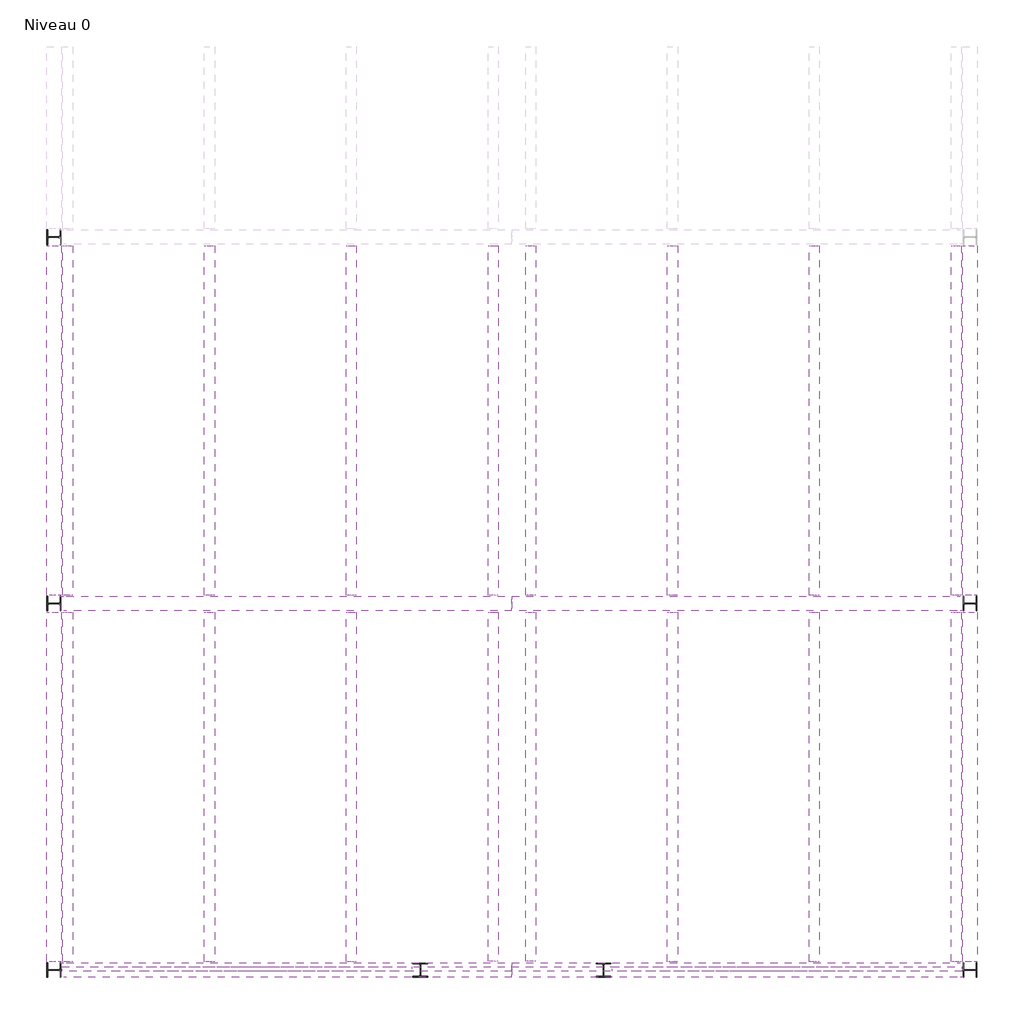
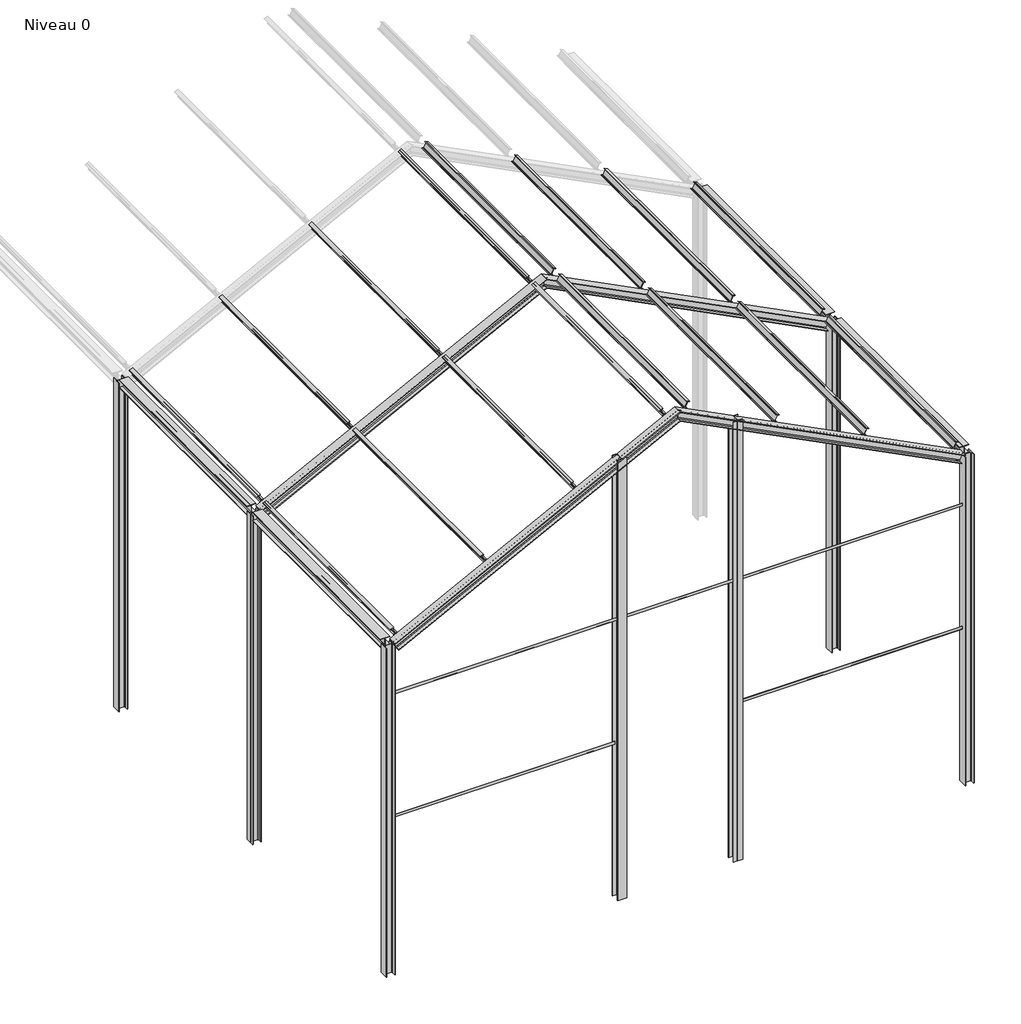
# One storey, part 1 of 3: 27 beams, 7 columns.
"""IFC4 building model written with IfcOpenShell, lengths in millimetres."""

from ifc_helpers import new_model, si_unit, frame, origin, place, context, project, spatial, polyline, circle_curve, ellipse_curve, transform, mapped, element, save
from ifc_brep_helpers import plane_surface, revolved_surface, advanced_brep
from components import hea160_7b7a9898, ipe_ipe120_a764803e, l50x5_0b9c2f02, l50x5_4d45e271, l50x5_54bbfbbe, hea160_ef068d4c, hea160_0ed8a569

model = new_model("IFC4")

# Units and contexts
model_context = context("Model", 3, world=origin())
ifc_project = project(units=[si_unit("LENGTHUNIT", "METRE", prefix="MILLI")], contexts=[model_context])

# Site, building, storey
site = spatial("IfcSite", under=ifc_project)
building = spatial("IfcBuilding", under=site)
storey = spatial("IfcBuildingStorey", under=building, Name="Niveau 0", Elevation=0.0)

# Beams
placement = place(None, origin())
element("IfcBeam", 1, ObjectType="HE-A : HEA160", at=placement, inside=storey, context=model_context, shape_type="AdvancedBrep", body=[
    advanced_brep(
    [(136.5957173, -80.0, 5609.1403443), (136.5957173, -18.0, 5609.1403443), (129.7808261, -3.0, 5622.5028762), (82.5309134, -3.0, 5715.1497636), (75.7160222, -18.0, 5728.5122955), (75.7160222, -80.0, 5728.5122955), (71.6270875, -80.0, 5736.5298146), (71.6270875, 80.0, 5736.5298146), (75.7160222, 80.0, 5728.5122955), (75.7160222, 18.0, 5728.5122955), (82.5309134, 3.0, 5715.1497636), (129.7808261, 3.0, 5622.5028762), (136.5957173, 18.0, 5609.1403443), (136.5957173, 80.0, 5609.1403443), (140.684652, 80.0, 5601.1228252), (140.684652, -80.0, 5601.1228252), (5000.0, -80.0, 8089.4765285), (5000.0, -18.0, 8089.4765285), (5000.0, -3.0, 8106.3146549), (5000.0, -3.0, 8223.0589978), (5000.0, -18.0, 8239.8971242), (5000.0, -80.0, 8239.8971242), (5000.0, -80.0, 8250.0), (5000.0, 80.0, 8250.0), (5000.0, 80.0, 8239.8971242), (5000.0, 18.0, 8239.8971242), (5000.0, 3.0, 8223.0589978), (5000.0, 3.0, 8106.3146549), (5000.0, 18.0, 8089.4765285), (5000.0, 80.0, 8089.4765285), (5000.0, 80.0, 8079.3736527), (5000.0, -80.0, 8079.3736527)],
    [
        (0, 1),
        (1, 2, circle_curve(frame((129.7808261, -18.0, 5622.5028762), z_axis=(0.8908354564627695, 0.0, 0.4543260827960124), x_axis=(0.0, 1.0, 0.0)), 15.0)),
        (2, 3),
        (3, 4, circle_curve(frame((82.5309134, -18.0, 5715.1497636), z_axis=(0.8908354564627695, 0.0, 0.4543260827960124), x_axis=(0.0, 1.0, 0.0)), 15.0)),
        (4, 5),
        (5, 6),
        (6, 7),
        (7, 8),
        (8, 9),
        (9, 10, circle_curve(frame((82.5309134, 18.0, 5715.1497636), z_axis=(0.8908354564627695, 0.0, 0.4543260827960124), x_axis=(0.0, 1.0, 0.0)), 15.0)),
        (10, 11),
        (11, 12, circle_curve(frame((129.7808261, 18.0, 5622.5028762), z_axis=(0.8908354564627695, 0.0, 0.4543260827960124), x_axis=(0.0, 1.0, 0.0)), 15.0)),
        (12, 13),
        (13, 14),
        (14, 15),
        (15, 0),
        (0, 16),
        (16, 17),
        (17, 1),
        (17, 18, ellipse_curve(frame((5000.0, -18.0, 8106.3146549), z_axis=(1.0, 0.0, 0.0), x_axis=(0.0, 0.0, 1.0)), 16.8381264, 15.0)),
        (18, 2),
        (18, 19),
        (19, 3),
        (19, 20, ellipse_curve(frame((5000.0, -18.0, 8223.0589978), z_axis=(1.0, 0.0, 0.0), x_axis=(0.0, 0.0, 1.0)), 16.8381264, 15.0)),
        (20, 4),
        (20, 21),
        (21, 5),
        (21, 22),
        (22, 6),
        (22, 23),
        (23, 7),
        (23, 24),
        (24, 8),
        (24, 25),
        (25, 9),
        (25, 26, ellipse_curve(frame((5000.0, 18.0, 8223.0589978), z_axis=(1.0, 0.0, 0.0), x_axis=(0.0, 0.0, 1.0)), 16.8381264, 15.0)),
        (26, 10),
        (26, 27),
        (27, 11),
        (27, 28, ellipse_curve(frame((5000.0, 18.0, 8106.3146549), z_axis=(1.0, 0.0, 0.0), x_axis=(0.0, 0.0, 1.0)), 16.8381264, 15.0)),
        (28, 12),
        (28, 29),
        (29, 13),
        (29, 30),
        (30, 14),
        (30, 31),
        (31, 15),
        (31, 16),
    ],
    [
        plane_surface(frame((106.1558697, 0.0, 5668.8263199), z_axis=(-0.8908354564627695, 0.0, -0.4543260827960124), x_axis=(-0.4543260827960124, 0.0, 0.8908354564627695))),
        plane_surface(frame((136.5957173, -80.0, 5609.1403443), z_axis=(-0.4543260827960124, 0.0, 0.8908354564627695), x_axis=(0.8908354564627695, 0.0, 0.4543260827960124))),
        revolved_surface(polyline([(5006.814891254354, -3.0, 8109.790249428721), (129.78082604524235, -3.0, 5622.502876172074)]), (129.7808261, -18.0, 5622.5028762), (0.8908354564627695, 0.0, 0.4543260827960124)),
        plane_surface(frame((129.7808261, -3.0, 5622.5028762), z_axis=(0.0, -1.0, 0.0), x_axis=(0.8908354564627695, 0.0, 0.4543260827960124))),
        revolved_surface(polyline([(5006.8148912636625, -3.0, 8226.534592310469), (82.5309134, -3.0, 5715.1497636)]), (82.5309134, -18.0, 5715.1497636), (0.8908354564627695, 0.0, 0.4543260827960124)),
        plane_surface(frame((75.7160222, -18.0, 5728.5122955), z_axis=(0.4543260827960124, 0.0, -0.8908354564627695), x_axis=(0.8908354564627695, 0.0, 0.4543260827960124))),
        plane_surface(frame((75.7160222, -80.0, 5728.5122955), z_axis=(0.0, -1.0, 0.0), x_axis=(0.8908354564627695, 0.0, 0.4543260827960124))),
        plane_surface(frame((71.6270875, -80.0, 5736.5298146), z_axis=(-0.4543260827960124, 0.0, 0.8908354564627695), x_axis=(0.8908354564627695, 0.0, 0.4543260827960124))),
        plane_surface(frame((71.6270875, 80.0, 5736.5298146), z_axis=(0.0, 1.0, 0.0), x_axis=(0.8908354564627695, 0.0, 0.4543260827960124))),
        plane_surface(frame((75.7160222, 80.0, 5728.5122955), z_axis=(0.4543260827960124, 0.0, -0.8908354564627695), x_axis=(0.8908354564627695, 0.0, 0.4543260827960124))),
        revolved_surface(polyline([(5006.8148912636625, 33.0, 8226.534592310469), (82.5309134, 33.0, 5715.1497636)]), (82.5309134, 18.0, 5715.1497636), (0.8908354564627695, 0.0, 0.4543260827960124)),
        plane_surface(frame((82.5309134, 3.0, 5715.1497636), z_axis=(0.0, 1.0, 0.0), x_axis=(0.8908354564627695, 0.0, 0.4543260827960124))),
        revolved_surface(polyline([(5006.814891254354, 33.0, 8109.790249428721), (129.78082604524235, 33.0, 5622.502876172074)]), (129.7808261, 18.0, 5622.5028762), (0.8908354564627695, 0.0, 0.4543260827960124)),
        plane_surface(frame((136.5957173, 18.0, 5609.1403443), z_axis=(-0.4543260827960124, 0.0, 0.8908354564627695), x_axis=(0.8908354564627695, 0.0, 0.4543260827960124))),
        plane_surface(frame((136.5957173, 80.0, 5609.1403443), z_axis=(0.0, 1.0, 0.0), x_axis=(0.8908354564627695, 0.0, 0.4543260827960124))),
        plane_surface(frame((140.684652, 80.0, 5601.1228252), z_axis=(0.4543260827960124, 0.0, -0.8908354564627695), x_axis=(0.8908354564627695, 0.0, 0.4543260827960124))),
        plane_surface(frame((140.684652, -80.0, 5601.1228252), z_axis=(0.0, -1.0, 0.0), x_axis=(0.8908354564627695, 0.0, 0.4543260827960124))),
        plane_surface(frame((5000.0, 0.0, 8079.3736527), z_axis=(1.0, 0.0, 0.0), x_axis=(0.0, -1.0, 0.0))),
    ],
    [
        (0, [[1, 2, 3, 4, 5, 6, 7, 8, 9, 10, 11, 12, 13, 14, 15, 16]]),
        (1, [[-1, 17, 18, 19]]),
        (2, [[-2, -19, 20, 21]]),
        (3, [[-3, -21, 22, 23]]),
        (4, [[-4, -23, 24, 25]]),
        (5, [[-5, -25, 26, 27]]),
        (6, [[-6, -27, 28, 29]]),
        (7, [[-7, -29, 30, 31]]),
        (8, [[-8, -31, 32, 33]]),
        (9, [[-9, -33, 34, 35]]),
        (10, [[-10, -35, 36, 37]]),
        (11, [[-11, -37, 38, 39]]),
        (12, [[-12, -39, 40, 41]]),
        (13, [[-13, -41, 42, 43]]),
        (14, [[-14, -43, 44, 45]]),
        (15, [[-15, -45, 46, 47]]),
        (16, [[-16, -47, 48, -17]]),
        (17, [[-48, -46, -44, -42, -40, -38, -36, -34, -32, -30, -28, -26, -24, -22, -20, -18]]),
    ],
),
])
element("IfcBeam", 2, ObjectType="HE-A : HEA160", at=placement, inside=storey, context=model_context, shape_type="AdvancedBrep", body=[
    advanced_brep(
    [(9863.4042827, 80.0, 5609.1403443), (9863.4042827, 18.0, 5609.1403443), (9870.2191739, 3.0, 5622.5028762), (9917.4690866, 3.0, 5715.1497636), (9924.2839778, 18.0, 5728.5122955), (9924.2839778, 80.0, 5728.5122955), (9928.3729125, 80.0, 5736.5298146), (9928.3729125, -80.0, 5736.5298146), (9924.2839778, -80.0, 5728.5122955), (9924.2839778, -18.0, 5728.5122955), (9917.4690866, -3.0, 5715.1497636), (9870.2191739, -3.0, 5622.5028762), (9863.4042827, -18.0, 5609.1403443), (9863.4042827, -80.0, 5609.1403443), (9859.315348, -80.0, 5601.1228252), (9859.315348, 80.0, 5601.1228252), (5000.0, 80.0, 8089.4765285), (5000.0, 18.0, 8089.4765285), (5000.0, 3.0, 8106.3146549), (5000.0, 3.0, 8223.0589978), (5000.0, 18.0, 8239.8971242), (5000.0, 80.0, 8239.8971242), (5000.0, 80.0, 8250.0), (5000.0, -80.0, 8250.0), (5000.0, -80.0, 8239.8971242), (5000.0, -18.0, 8239.8971242), (5000.0, -3.0, 8223.0589978), (5000.0, -3.0, 8106.3146549), (5000.0, -18.0, 8089.4765285), (5000.0, -80.0, 8089.4765285), (5000.0, -80.0, 8079.3736527), (5000.0, 80.0, 8079.3736527)],
    [
        (0, 1),
        (1, 2, circle_curve(frame((9870.2191739, 18.0, 5622.5028762), z_axis=(-0.8908354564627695, 0.0, 0.4543260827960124), x_axis=(0.0, -1.0, 0.0)), 15.0)),
        (2, 3),
        (3, 4, circle_curve(frame((9917.4690866, 18.0, 5715.1497636), z_axis=(-0.8908354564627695, 0.0, 0.4543260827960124), x_axis=(0.0, -1.0, 0.0)), 15.0)),
        (4, 5),
        (5, 6),
        (6, 7),
        (7, 8),
        (8, 9),
        (9, 10, circle_curve(frame((9917.4690866, -18.0, 5715.1497636), z_axis=(-0.8908354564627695, 0.0, 0.4543260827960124), x_axis=(0.0, -1.0, 0.0)), 15.0)),
        (10, 11),
        (11, 12, circle_curve(frame((9870.2191739, -18.0, 5622.5028762), z_axis=(-0.8908354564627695, 0.0, 0.4543260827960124), x_axis=(0.0, -1.0, 0.0)), 15.0)),
        (12, 13),
        (13, 14),
        (14, 15),
        (15, 0),
        (0, 16),
        (16, 17),
        (17, 1),
        (17, 18, ellipse_curve(frame((5000.0, 18.0, 8106.3146549), z_axis=(-1.0, 0.0, 0.0), x_axis=(0.0, 0.0, 1.0)), 16.8381264, 15.0)),
        (18, 2),
        (18, 19),
        (19, 3),
        (19, 20, ellipse_curve(frame((5000.0, 18.0, 8223.0589978), z_axis=(-1.0, 0.0, 0.0), x_axis=(0.0, 0.0, 1.0)), 16.8381264, 15.0)),
        (20, 4),
        (20, 21),
        (21, 5),
        (21, 22),
        (22, 6),
        (22, 23),
        (23, 7),
        (23, 24),
        (24, 8),
        (24, 25),
        (25, 9),
        (25, 26, ellipse_curve(frame((5000.0, -18.0, 8223.0589978), z_axis=(-1.0, 0.0, 0.0), x_axis=(0.0, 0.0, 1.0)), 16.8381264, 15.0)),
        (26, 10),
        (26, 27),
        (27, 11),
        (27, 28, ellipse_curve(frame((5000.0, -18.0, 8106.3146549), z_axis=(-1.0, 0.0, 0.0), x_axis=(0.0, 0.0, 1.0)), 16.8381264, 15.0)),
        (28, 12),
        (28, 29),
        (29, 13),
        (29, 30),
        (30, 14),
        (30, 31),
        (31, 15),
        (31, 16),
    ],
    [
        plane_surface(frame((9893.8441303, 0.0, 5668.8263199), z_axis=(0.8908354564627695, 0.0, -0.4543260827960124), x_axis=(0.4543260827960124, 0.0, 0.8908354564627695))),
        plane_surface(frame((9863.4042827, 80.0, 5609.1403443), z_axis=(0.4543260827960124, 0.0, 0.8908354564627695), x_axis=(-0.8908354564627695, 0.0, 0.4543260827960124))),
        revolved_surface(polyline([(4993.185108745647, 3.0, 8109.790249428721), (9870.219173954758, 3.0, 5622.502876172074)]), (9870.2191739, 18.0, 5622.5028762), (-0.8908354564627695, 0.0, 0.4543260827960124)),
        plane_surface(frame((9870.2191739, 3.0, 5622.5028762), z_axis=(0.0, 1.0, 0.0), x_axis=(-0.8908354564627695, 0.0, 0.4543260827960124))),
        revolved_surface(polyline([(4993.1851087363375, 3.0, 8226.534592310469), (9917.4690866, 3.0, 5715.1497636)]), (9917.4690866, 18.0, 5715.1497636), (-0.8908354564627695, 0.0, 0.4543260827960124)),
        plane_surface(frame((9924.2839778, 18.0, 5728.5122955), z_axis=(-0.4543260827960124, 0.0, -0.8908354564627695), x_axis=(-0.8908354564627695, 0.0, 0.4543260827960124))),
        plane_surface(frame((9924.2839778, 80.0, 5728.5122955), z_axis=(0.0, 1.0, 0.0), x_axis=(-0.8908354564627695, 0.0, 0.4543260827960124))),
        plane_surface(frame((9928.3729125, 80.0, 5736.5298146), z_axis=(0.4543260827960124, 0.0, 0.8908354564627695), x_axis=(-0.8908354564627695, 0.0, 0.4543260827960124))),
        plane_surface(frame((9928.3729125, -80.0, 5736.5298146), z_axis=(0.0, -1.0, 0.0), x_axis=(-0.8908354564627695, 0.0, 0.4543260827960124))),
        plane_surface(frame((9924.2839778, -80.0, 5728.5122955), z_axis=(-0.4543260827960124, 0.0, -0.8908354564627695), x_axis=(-0.8908354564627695, 0.0, 0.4543260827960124))),
        revolved_surface(polyline([(4993.1851087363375, -33.0, 8226.534592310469), (9917.4690866, -33.0, 5715.1497636)]), (9917.4690866, -18.0, 5715.1497636), (-0.8908354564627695, 0.0, 0.4543260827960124)),
        plane_surface(frame((9917.4690866, -3.0, 5715.1497636), z_axis=(0.0, -1.0, 0.0), x_axis=(-0.8908354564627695, 0.0, 0.4543260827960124))),
        revolved_surface(polyline([(4993.185108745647, -33.0, 8109.790249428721), (9870.219173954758, -33.0, 5622.502876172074)]), (9870.2191739, -18.0, 5622.5028762), (-0.8908354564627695, 0.0, 0.4543260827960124)),
        plane_surface(frame((9863.4042827, -18.0, 5609.1403443), z_axis=(0.4543260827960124, 0.0, 0.8908354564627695), x_axis=(-0.8908354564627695, 0.0, 0.4543260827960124))),
        plane_surface(frame((9863.4042827, -80.0, 5609.1403443), z_axis=(0.0, -1.0, 0.0), x_axis=(-0.8908354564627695, 0.0, 0.4543260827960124))),
        plane_surface(frame((9859.315348, -80.0, 5601.1228252), z_axis=(-0.4543260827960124, 0.0, -0.8908354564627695), x_axis=(-0.8908354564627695, 0.0, 0.4543260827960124))),
        plane_surface(frame((9859.315348, 80.0, 5601.1228252), z_axis=(0.0, 1.0, 0.0), x_axis=(-0.8908354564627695, 0.0, 0.4543260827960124))),
        plane_surface(frame((5000.0, 0.0, 8079.3736527), z_axis=(-1.0, 0.0, 0.0), x_axis=(0.0, 1.0, 0.0))),
    ],
    [
        (0, [[1, 2, 3, 4, 5, 6, 7, 8, 9, 10, 11, 12, 13, 14, 15, 16]]),
        (1, [[-1, 17, 18, 19]]),
        (2, [[-2, -19, 20, 21]]),
        (3, [[-3, -21, 22, 23]]),
        (4, [[-4, -23, 24, 25]]),
        (5, [[-5, -25, 26, 27]]),
        (6, [[-6, -27, 28, 29]]),
        (7, [[-7, -29, 30, 31]]),
        (8, [[-8, -31, 32, 33]]),
        (9, [[-9, -33, 34, 35]]),
        (10, [[-10, -35, 36, 37]]),
        (11, [[-11, -37, 38, 39]]),
        (12, [[-12, -39, 40, 41]]),
        (13, [[-13, -41, 42, 43]]),
        (14, [[-14, -43, 44, 45]]),
        (15, [[-15, -45, 46, 47]]),
        (16, [[-16, -47, 48, -17]]),
        (17, [[-48, -46, -44, -42, -40, -38, -36, -34, -32, -30, -28, -26, -24, -22, -20, -18]]),
    ],
),
])
element("IfcBeam", 3, ObjectType="HE-A : HEA160", at=placement, inside=storey, context=model_context, shape_type="AdvancedBrep", body=[
    advanced_brep(
    [(136.5957173, 3920.0, 5609.1403443), (136.5957173, 3982.0, 5609.1403443), (129.7808261, 3997.0, 5622.5028762), (82.5309134, 3997.0, 5715.1497636), (75.7160222, 3982.0, 5728.5122955), (75.7160222, 3920.0, 5728.5122955), (71.6270875, 3920.0, 5736.5298146), (71.6270875, 4080.0, 5736.5298146), (75.7160222, 4080.0, 5728.5122955), (75.7160222, 4018.0, 5728.5122955), (82.5309134, 4003.0, 5715.1497636), (129.7808261, 4003.0, 5622.5028762), (136.5957173, 4018.0, 5609.1403443), (136.5957173, 4080.0, 5609.1403443), (140.684652, 4080.0, 5601.1228252), (140.684652, 3920.0, 5601.1228252), (5000.0, 3920.0, 8089.4765285), (5000.0, 3982.0, 8089.4765285), (5000.0, 3997.0, 8106.3146549), (5000.0, 3997.0, 8223.0589978), (5000.0, 3982.0, 8239.8971242), (5000.0, 3920.0, 8239.8971242), (5000.0, 3920.0, 8250.0), (5000.0, 4080.0, 8250.0), (5000.0, 4080.0, 8239.8971242), (5000.0, 4018.0, 8239.8971242), (5000.0, 4003.0, 8223.0589978), (5000.0, 4003.0, 8106.3146549), (5000.0, 4018.0, 8089.4765285), (5000.0, 4080.0, 8089.4765285), (5000.0, 4080.0, 8079.3736527), (5000.0, 3920.0, 8079.3736527)],
    [
        (0, 1),
        (1, 2, circle_curve(frame((129.7808261, 3982.0, 5622.5028762), z_axis=(0.8908354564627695, 0.0, 0.4543260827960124), x_axis=(0.0, 1.0, 0.0)), 15.0)),
        (2, 3),
        (3, 4, circle_curve(frame((82.5309134, 3982.0, 5715.1497636), z_axis=(0.8908354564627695, 0.0, 0.4543260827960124), x_axis=(0.0, 1.0, 0.0)), 15.0)),
        (4, 5),
        (5, 6),
        (6, 7),
        (7, 8),
        (8, 9),
        (9, 10, circle_curve(frame((82.5309134, 4018.0, 5715.1497636), z_axis=(0.8908354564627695, 0.0, 0.4543260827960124), x_axis=(0.0, 1.0, 0.0)), 15.0)),
        (10, 11),
        (11, 12, circle_curve(frame((129.7808261, 4018.0, 5622.5028762), z_axis=(0.8908354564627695, 0.0, 0.4543260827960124), x_axis=(0.0, 1.0, 0.0)), 15.0)),
        (12, 13),
        (13, 14),
        (14, 15),
        (15, 0),
        (0, 16),
        (16, 17),
        (17, 1),
        (17, 18, ellipse_curve(frame((5000.0, 3982.0, 8106.3146549), z_axis=(1.0, 0.0, 0.0), x_axis=(0.0, 0.0, 1.0)), 16.8381264, 15.0)),
        (18, 2),
        (18, 19),
        (19, 3),
        (19, 20, ellipse_curve(frame((5000.0, 3982.0, 8223.0589978), z_axis=(1.0, 0.0, 0.0), x_axis=(0.0, 0.0, 1.0)), 16.8381264, 15.0)),
        (20, 4),
        (20, 21),
        (21, 5),
        (21, 22),
        (22, 6),
        (22, 23),
        (23, 7),
        (23, 24),
        (24, 8),
        (24, 25),
        (25, 9),
        (25, 26, ellipse_curve(frame((5000.0, 4018.0, 8223.0589978), z_axis=(1.0, 0.0, 0.0), x_axis=(0.0, 0.0, 1.0)), 16.8381264, 15.0)),
        (26, 10),
        (26, 27),
        (27, 11),
        (27, 28, ellipse_curve(frame((5000.0, 4018.0, 8106.3146549), z_axis=(1.0, 0.0, 0.0), x_axis=(0.0, 0.0, 1.0)), 16.8381264, 15.0)),
        (28, 12),
        (28, 29),
        (29, 13),
        (29, 30),
        (30, 14),
        (30, 31),
        (31, 15),
        (31, 16),
    ],
    [
        plane_surface(frame((106.1558697, 4000.0, 5668.8263199), z_axis=(-0.8908354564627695, 0.0, -0.4543260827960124), x_axis=(-0.4543260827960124, 0.0, 0.8908354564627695))),
        plane_surface(frame((136.5957173, 3920.0, 5609.1403443), z_axis=(-0.4543260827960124, 0.0, 0.8908354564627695), x_axis=(0.8908354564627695, 0.0, 0.4543260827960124))),
        revolved_surface(polyline([(5006.814891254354, 3997.0, 8109.790249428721), (129.78082604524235, 3997.0, 5622.502876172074)]), (129.7808261, 3982.0, 5622.5028762), (0.8908354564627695, 0.0, 0.4543260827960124)),
        plane_surface(frame((129.7808261, 3997.0, 5622.5028762), z_axis=(0.0, -1.0, 0.0), x_axis=(0.8908354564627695, 0.0, 0.4543260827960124))),
        revolved_surface(polyline([(5006.8148912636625, 3997.0, 8226.534592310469), (82.5309134, 3997.0, 5715.1497636)]), (82.5309134, 3982.0, 5715.1497636), (0.8908354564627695, 0.0, 0.4543260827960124)),
        plane_surface(frame((75.7160222, 3982.0, 5728.5122955), z_axis=(0.4543260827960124, 0.0, -0.8908354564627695), x_axis=(0.8908354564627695, 0.0, 0.4543260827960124))),
        plane_surface(frame((75.7160222, 3920.0, 5728.5122955), z_axis=(0.0, -1.0, 0.0), x_axis=(0.8908354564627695, 0.0, 0.4543260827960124))),
        plane_surface(frame((71.6270875, 3920.0, 5736.5298146), z_axis=(-0.4543260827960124, 0.0, 0.8908354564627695), x_axis=(0.8908354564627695, 0.0, 0.4543260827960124))),
        plane_surface(frame((71.6270875, 4080.0, 5736.5298146), z_axis=(0.0, 1.0, 0.0), x_axis=(0.8908354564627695, 0.0, 0.4543260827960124))),
        plane_surface(frame((75.7160222, 4080.0, 5728.5122955), z_axis=(0.4543260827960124, 0.0, -0.8908354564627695), x_axis=(0.8908354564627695, 0.0, 0.4543260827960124))),
        revolved_surface(polyline([(5006.8148912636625, 4033.0, 8226.534592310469), (82.5309134, 4033.0, 5715.1497636)]), (82.5309134, 4018.0, 5715.1497636), (0.8908354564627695, 0.0, 0.4543260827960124)),
        plane_surface(frame((82.5309134, 4003.0, 5715.1497636), z_axis=(0.0, 1.0, 0.0), x_axis=(0.8908354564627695, 0.0, 0.4543260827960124))),
        revolved_surface(polyline([(5006.814891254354, 4033.0, 8109.790249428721), (129.78082604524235, 4033.0, 5622.502876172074)]), (129.7808261, 4018.0, 5622.5028762), (0.8908354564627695, 0.0, 0.4543260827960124)),
        plane_surface(frame((136.5957173, 4018.0, 5609.1403443), z_axis=(-0.4543260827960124, 0.0, 0.8908354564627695), x_axis=(0.8908354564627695, 0.0, 0.4543260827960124))),
        plane_surface(frame((136.5957173, 4080.0, 5609.1403443), z_axis=(0.0, 1.0, 0.0), x_axis=(0.8908354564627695, 0.0, 0.4543260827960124))),
        plane_surface(frame((140.684652, 4080.0, 5601.1228252), z_axis=(0.4543260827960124, 0.0, -0.8908354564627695), x_axis=(0.8908354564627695, 0.0, 0.4543260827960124))),
        plane_surface(frame((140.684652, 3920.0, 5601.1228252), z_axis=(0.0, -1.0, 0.0), x_axis=(0.8908354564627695, 0.0, 0.4543260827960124))),
        plane_surface(frame((5000.0, 4000.0, 8079.3736527), z_axis=(1.0, 0.0, 0.0), x_axis=(0.0, -1.0, 0.0))),
    ],
    [
        (0, [[1, 2, 3, 4, 5, 6, 7, 8, 9, 10, 11, 12, 13, 14, 15, 16]]),
        (1, [[-1, 17, 18, 19]]),
        (2, [[-2, -19, 20, 21]]),
        (3, [[-3, -21, 22, 23]]),
        (4, [[-4, -23, 24, 25]]),
        (5, [[-5, -25, 26, 27]]),
        (6, [[-6, -27, 28, 29]]),
        (7, [[-7, -29, 30, 31]]),
        (8, [[-8, -31, 32, 33]]),
        (9, [[-9, -33, 34, 35]]),
        (10, [[-10, -35, 36, 37]]),
        (11, [[-11, -37, 38, 39]]),
        (12, [[-12, -39, 40, 41]]),
        (13, [[-13, -41, 42, 43]]),
        (14, [[-14, -43, 44, 45]]),
        (15, [[-15, -45, 46, 47]]),
        (16, [[-16, -47, 48, -17]]),
        (17, [[-48, -46, -44, -42, -40, -38, -36, -34, -32, -30, -28, -26, -24, -22, -20, -18]]),
    ],
),
])
element("IfcBeam", 4, ObjectType="HE-A : HEA160", at=placement, inside=storey, context=model_context, shape_type="AdvancedBrep", body=[
    advanced_brep(
    [(9863.4042827, 4080.0, 5609.1403443), (9863.4042827, 4018.0, 5609.1403443), (9870.2191739, 4003.0, 5622.5028762), (9917.4690866, 4003.0, 5715.1497636), (9924.2839778, 4018.0, 5728.5122955), (9924.2839778, 4080.0, 5728.5122955), (9928.3729125, 4080.0, 5736.5298146), (9928.3729125, 3920.0, 5736.5298146), (9924.2839778, 3920.0, 5728.5122955), (9924.2839778, 3982.0, 5728.5122955), (9917.4690866, 3997.0, 5715.1497636), (9870.2191739, 3997.0, 5622.5028762), (9863.4042827, 3982.0, 5609.1403443), (9863.4042827, 3920.0, 5609.1403443), (9859.315348, 3920.0, 5601.1228252), (9859.315348, 4080.0, 5601.1228252), (5000.0, 4080.0, 8089.4765285), (5000.0, 4018.0, 8089.4765285), (5000.0, 4003.0, 8106.3146549), (5000.0, 4003.0, 8223.0589978), (5000.0, 4018.0, 8239.8971242), (5000.0, 4080.0, 8239.8971242), (5000.0, 4080.0, 8250.0), (5000.0, 3920.0, 8250.0), (5000.0, 3920.0, 8239.8971242), (5000.0, 3982.0, 8239.8971242), (5000.0, 3997.0, 8223.0589978), (5000.0, 3997.0, 8106.3146549), (5000.0, 3982.0, 8089.4765285), (5000.0, 3920.0, 8089.4765285), (5000.0, 3920.0, 8079.3736527), (5000.0, 4080.0, 8079.3736527)],
    [
        (0, 1),
        (1, 2, circle_curve(frame((9870.2191739, 4018.0, 5622.5028762), z_axis=(-0.8908354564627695, 0.0, 0.4543260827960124), x_axis=(0.0, -1.0, 0.0)), 15.0)),
        (2, 3),
        (3, 4, circle_curve(frame((9917.4690866, 4018.0, 5715.1497636), z_axis=(-0.8908354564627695, 0.0, 0.4543260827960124), x_axis=(0.0, -1.0, 0.0)), 15.0)),
        (4, 5),
        (5, 6),
        (6, 7),
        (7, 8),
        (8, 9),
        (9, 10, circle_curve(frame((9917.4690866, 3982.0, 5715.1497636), z_axis=(-0.8908354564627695, 0.0, 0.4543260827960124), x_axis=(0.0, -1.0, 0.0)), 15.0)),
        (10, 11),
        (11, 12, circle_curve(frame((9870.2191739, 3982.0, 5622.5028762), z_axis=(-0.8908354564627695, 0.0, 0.4543260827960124), x_axis=(0.0, -1.0, 0.0)), 15.0)),
        (12, 13),
        (13, 14),
        (14, 15),
        (15, 0),
        (0, 16),
        (16, 17),
        (17, 1),
        (17, 18, ellipse_curve(frame((5000.0, 4018.0, 8106.3146549), z_axis=(-1.0, 0.0, 0.0), x_axis=(0.0, 0.0, 1.0)), 16.8381264, 15.0)),
        (18, 2),
        (18, 19),
        (19, 3),
        (19, 20, ellipse_curve(frame((5000.0, 4018.0, 8223.0589978), z_axis=(-1.0, 0.0, 0.0), x_axis=(0.0, 0.0, 1.0)), 16.8381264, 15.0)),
        (20, 4),
        (20, 21),
        (21, 5),
        (21, 22),
        (22, 6),
        (22, 23),
        (23, 7),
        (23, 24),
        (24, 8),
        (24, 25),
        (25, 9),
        (25, 26, ellipse_curve(frame((5000.0, 3982.0, 8223.0589978), z_axis=(-1.0, 0.0, 0.0), x_axis=(0.0, 0.0, 1.0)), 16.8381264, 15.0)),
        (26, 10),
        (26, 27),
        (27, 11),
        (27, 28, ellipse_curve(frame((5000.0, 3982.0, 8106.3146549), z_axis=(-1.0, 0.0, 0.0), x_axis=(0.0, 0.0, 1.0)), 16.8381264, 15.0)),
        (28, 12),
        (28, 29),
        (29, 13),
        (29, 30),
        (30, 14),
        (30, 31),
        (31, 15),
        (31, 16),
    ],
    [
        plane_surface(frame((9893.8441303, 4000.0, 5668.8263199), z_axis=(0.8908354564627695, 0.0, -0.4543260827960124), x_axis=(0.4543260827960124, 0.0, 0.8908354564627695))),
        plane_surface(frame((9863.4042827, 4080.0, 5609.1403443), z_axis=(0.4543260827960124, 0.0, 0.8908354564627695), x_axis=(-0.8908354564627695, 0.0, 0.4543260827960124))),
        revolved_surface(polyline([(4993.185108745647, 4003.0, 8109.790249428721), (9870.219173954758, 4003.0, 5622.502876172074)]), (9870.2191739, 4018.0, 5622.5028762), (-0.8908354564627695, 0.0, 0.4543260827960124)),
        plane_surface(frame((9870.2191739, 4003.0, 5622.5028762), z_axis=(0.0, 1.0, 0.0), x_axis=(-0.8908354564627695, 0.0, 0.4543260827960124))),
        revolved_surface(polyline([(4993.1851087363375, 4003.0, 8226.534592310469), (9917.4690866, 4003.0, 5715.1497636)]), (9917.4690866, 4018.0, 5715.1497636), (-0.8908354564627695, 0.0, 0.4543260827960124)),
        plane_surface(frame((9924.2839778, 4018.0, 5728.5122955), z_axis=(-0.4543260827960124, 0.0, -0.8908354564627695), x_axis=(-0.8908354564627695, 0.0, 0.4543260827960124))),
        plane_surface(frame((9924.2839778, 4080.0, 5728.5122955), z_axis=(0.0, 1.0, 0.0), x_axis=(-0.8908354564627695, 0.0, 0.4543260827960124))),
        plane_surface(frame((9928.3729125, 4080.0, 5736.5298146), z_axis=(0.4543260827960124, 0.0, 0.8908354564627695), x_axis=(-0.8908354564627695, 0.0, 0.4543260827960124))),
        plane_surface(frame((9928.3729125, 3920.0, 5736.5298146), z_axis=(0.0, -1.0, 0.0), x_axis=(-0.8908354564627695, 0.0, 0.4543260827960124))),
        plane_surface(frame((9924.2839778, 3920.0, 5728.5122955), z_axis=(-0.4543260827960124, 0.0, -0.8908354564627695), x_axis=(-0.8908354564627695, 0.0, 0.4543260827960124))),
        revolved_surface(polyline([(4993.1851087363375, 3967.0, 8226.534592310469), (9917.4690866, 3967.0, 5715.1497636)]), (9917.4690866, 3982.0, 5715.1497636), (-0.8908354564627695, 0.0, 0.4543260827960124)),
        plane_surface(frame((9917.4690866, 3997.0, 5715.1497636), z_axis=(0.0, -1.0, 0.0), x_axis=(-0.8908354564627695, 0.0, 0.4543260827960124))),
        revolved_surface(polyline([(4993.185108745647, 3967.0, 8109.790249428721), (9870.219173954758, 3967.0, 5622.502876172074)]), (9870.2191739, 3982.0, 5622.5028762), (-0.8908354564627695, 0.0, 0.4543260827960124)),
        plane_surface(frame((9863.4042827, 3982.0, 5609.1403443), z_axis=(0.4543260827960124, 0.0, 0.8908354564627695), x_axis=(-0.8908354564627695, 0.0, 0.4543260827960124))),
        plane_surface(frame((9863.4042827, 3920.0, 5609.1403443), z_axis=(0.0, -1.0, 0.0), x_axis=(-0.8908354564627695, 0.0, 0.4543260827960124))),
        plane_surface(frame((9859.315348, 3920.0, 5601.1228252), z_axis=(-0.4543260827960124, 0.0, -0.8908354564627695), x_axis=(-0.8908354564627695, 0.0, 0.4543260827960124))),
        plane_surface(frame((9859.315348, 4080.0, 5601.1228252), z_axis=(0.0, 1.0, 0.0), x_axis=(-0.8908354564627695, 0.0, 0.4543260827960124))),
        plane_surface(frame((5000.0, 4000.0, 8079.3736527), z_axis=(-1.0, 0.0, 0.0), x_axis=(0.0, 1.0, 0.0))),
    ],
    [
        (0, [[1, 2, 3, 4, 5, 6, 7, 8, 9, 10, 11, 12, 13, 14, 15, 16]]),
        (1, [[-1, 17, 18, 19]]),
        (2, [[-2, -19, 20, 21]]),
        (3, [[-3, -21, 22, 23]]),
        (4, [[-4, -23, 24, 25]]),
        (5, [[-5, -25, 26, 27]]),
        (6, [[-6, -27, 28, 29]]),
        (7, [[-7, -29, 30, 31]]),
        (8, [[-8, -31, 32, 33]]),
        (9, [[-9, -33, 34, 35]]),
        (10, [[-10, -35, 36, 37]]),
        (11, [[-11, -37, 38, 39]]),
        (12, [[-12, -39, 40, 41]]),
        (13, [[-13, -41, 42, 43]]),
        (14, [[-14, -43, 44, 45]]),
        (15, [[-15, -45, 46, 47]]),
        (16, [[-16, -47, 48, -17]]),
        (17, [[-48, -46, -44, -42, -40, -38, -36, -34, -32, -30, -28, -26, -24, -22, -20, -18]]),
    ],
),
])
hea160_shape = hea160_7b7a9898(model_context)
element("IfcBeam", 5, ObjectType="HE-A : HEA160", at=placement, inside=storey, context=model_context, shape_type="MappedRepresentation", body=[
    mapped(hea160_shape, transform((0.0, 2000.0, 5700.0), x_axis=(0.0, -1.0, 0.0), y_axis=(1.0, 0.0, 0.0), z_axis=(0.0, 0.0, 1.0))),
])
element("IfcBeam", 6, ObjectType="HE-A : HEA160", at=placement, inside=storey, context=model_context, shape_type="MappedRepresentation", body=[
    mapped(hea160_shape, transform((0.0, 6000.0, 5700.0), x_axis=(0.0, -1.0, 0.0), y_axis=(1.0, 0.0, 0.0), z_axis=(0.0, 0.0, 1.0))),
])
element("IfcBeam", 7, ObjectType="HE-A : HEA160", at=placement, inside=storey, context=model_context, shape_type="MappedRepresentation", body=[
    mapped(hea160_shape, transform((10000.0, 2000.0, 5700.0), x_axis=(0.0, -1.0, 0.0), y_axis=(1.0, 0.0, 0.0), z_axis=(0.0, 0.0, 1.0))),
])
element("IfcBeam", 8, ObjectType="HE-A : HEA160", at=placement, inside=storey, context=model_context, shape_type="MappedRepresentation", body=[
    mapped(hea160_shape, transform((10000.0, 6000.0, 5700.0), x_axis=(0.0, -1.0, 0.0), y_axis=(1.0, 0.0, 0.0), z_axis=(0.0, 0.0, 1.0))),
])
ipe_ipe120_shape = ipe_ipe120_a764803e(model_context)
element("IfcBeam", 9, ObjectType="IPE : IPE120", at=placement, inside=storey, context=model_context, shape_type="MappedRepresentation", body=[
    mapped(ipe_ipe120_shape, transform((150.9075263, 2000.0, 5844.3153439), x_axis=(0.0, -1.0, 0.0), y_axis=(0.8908354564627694, 0.0, 0.4543260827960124), z_axis=(-0.4543260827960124, 0.0, 0.8908354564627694))),
])
element("IfcBeam", 10, ObjectType="IPE : IPE120", at=placement, inside=storey, context=model_context, shape_type="MappedRepresentation", body=[
    mapped(ipe_ipe120_shape, transform((150.9075263, 6000.0, 5844.3153439), x_axis=(0.0, -1.0, 0.0), y_axis=(0.8908354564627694, 0.0, 0.4543260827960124), z_axis=(-0.4543260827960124, 0.0, 0.8908354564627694))),
])
element("IfcBeam", 11, ObjectType="IPE : IPE120", at=placement, inside=storey, context=model_context, shape_type="MappedRepresentation", body=[
    mapped(ipe_ipe120_shape, transform((1698.7961321, 2000.0, 6633.7385329), x_axis=(0.0, -1.0, 0.0), y_axis=(0.8908354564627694, 0.0, 0.4543260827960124), z_axis=(-0.4543260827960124, 0.0, 0.8908354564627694))),
])
element("IfcBeam", 12, ObjectType="IPE : IPE120", at=placement, inside=storey, context=model_context, shape_type="MappedRepresentation", body=[
    mapped(ipe_ipe120_shape, transform((1698.7961321, 6000.0, 6633.7385329), x_axis=(0.0, -1.0, 0.0), y_axis=(0.8908354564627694, 0.0, 0.4543260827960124), z_axis=(-0.4543260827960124, 0.0, 0.8908354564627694))),
])
element("IfcBeam", 13, ObjectType="IPE : IPE120", at=placement, inside=storey, context=model_context, shape_type="MappedRepresentation", body=[
    mapped(ipe_ipe120_shape, transform((3246.6847379, 2000.0, 7423.1617219), x_axis=(0.0, -1.0, 0.0), y_axis=(0.8908354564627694, 0.0, 0.4543260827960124), z_axis=(-0.4543260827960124, 0.0, 0.8908354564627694))),
])
element("IfcBeam", 14, ObjectType="IPE : IPE120", at=placement, inside=storey, context=model_context, shape_type="MappedRepresentation", body=[
    mapped(ipe_ipe120_shape, transform((3246.6847379, 6000.0, 7423.1617219), x_axis=(0.0, -1.0, 0.0), y_axis=(0.8908354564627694, 0.0, 0.4543260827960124), z_axis=(-0.4543260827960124, 0.0, 0.8908354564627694))),
])
element("IfcBeam", 15, ObjectType="IPE : IPE120", at=placement, inside=storey, context=model_context, shape_type="MappedRepresentation", body=[
    mapped(ipe_ipe120_shape, transform((4794.5733437, 2000.0, 8212.5849108), x_axis=(0.0, -1.0, 0.0), y_axis=(0.8908354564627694, 0.0, 0.4543260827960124), z_axis=(-0.4543260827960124, 0.0, 0.8908354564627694))),
])
element("IfcBeam", 16, ObjectType="IPE : IPE120", at=placement, inside=storey, context=model_context, shape_type="MappedRepresentation", body=[
    mapped(ipe_ipe120_shape, transform((4794.5733437, 6000.0, 8212.5849108), x_axis=(0.0, -1.0, 0.0), y_axis=(0.8908354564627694, 0.0, 0.4543260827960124), z_axis=(-0.4543260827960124, 0.0, 0.8908354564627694))),
])
element("IfcBeam", 17, ObjectType="IPE : IPE120", at=placement, inside=storey, context=model_context, shape_type="MappedRepresentation", body=[
    mapped(ipe_ipe120_shape, transform((5205.4266563, 2000.0, 8212.5849108), x_axis=(0.0, -1.0, 0.0), y_axis=(0.8908354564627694, 0.0, -0.4543260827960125), z_axis=(0.4543260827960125, 0.0, 0.8908354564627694))),
])
element("IfcBeam", 18, ObjectType="IPE : IPE120", at=placement, inside=storey, context=model_context, shape_type="MappedRepresentation", body=[
    mapped(ipe_ipe120_shape, transform((5205.4266563, 6000.0, 8212.5849108), x_axis=(0.0, -1.0, 0.0), y_axis=(0.8908354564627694, 0.0, -0.4543260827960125), z_axis=(0.4543260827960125, 0.0, 0.8908354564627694))),
])
element("IfcBeam", 19, ObjectType="IPE : IPE120", at=placement, inside=storey, context=model_context, shape_type="MappedRepresentation", body=[
    mapped(ipe_ipe120_shape, transform((6753.3152621, 2000.0, 7423.1617219), x_axis=(0.0, -1.0, 0.0), y_axis=(0.8908354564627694, 0.0, -0.4543260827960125), z_axis=(0.4543260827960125, 0.0, 0.8908354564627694))),
])
element("IfcBeam", 20, ObjectType="IPE : IPE120", at=placement, inside=storey, context=model_context, shape_type="MappedRepresentation", body=[
    mapped(ipe_ipe120_shape, transform((6753.3152621, 6000.0, 7423.1617219), x_axis=(0.0, -1.0, 0.0), y_axis=(0.8908354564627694, 0.0, -0.4543260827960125), z_axis=(0.4543260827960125, 0.0, 0.8908354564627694))),
])
element("IfcBeam", 21, ObjectType="IPE : IPE120", at=placement, inside=storey, context=model_context, shape_type="MappedRepresentation", body=[
    mapped(ipe_ipe120_shape, transform((8301.2038679, 2000.0, 6633.7385329), x_axis=(0.0, -1.0, 0.0), y_axis=(0.8908354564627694, 0.0, -0.4543260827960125), z_axis=(0.4543260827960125, 0.0, 0.8908354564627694))),
])
element("IfcBeam", 22, ObjectType="IPE : IPE120", at=placement, inside=storey, context=model_context, shape_type="MappedRepresentation", body=[
    mapped(ipe_ipe120_shape, transform((8301.2038679, 6000.0, 6633.7385329), x_axis=(0.0, -1.0, 0.0), y_axis=(0.8908354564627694, 0.0, -0.4543260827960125), z_axis=(0.4543260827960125, 0.0, 0.8908354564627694))),
])
element("IfcBeam", 23, ObjectType="IPE : IPE120", at=placement, inside=storey, context=model_context, shape_type="MappedRepresentation", body=[
    mapped(ipe_ipe120_shape, transform((9849.0924737, 2000.0, 5844.3153439), x_axis=(0.0, -1.0, 0.0), y_axis=(0.8908354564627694, 0.0, -0.4543260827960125), z_axis=(0.4543260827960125, 0.0, 0.8908354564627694))),
])
element("IfcBeam", 24, ObjectType="IPE : IPE120", at=placement, inside=storey, context=model_context, shape_type="MappedRepresentation", body=[
    mapped(ipe_ipe120_shape, transform((9849.0924737, 6000.0, 5844.3153439), x_axis=(0.0, -1.0, 0.0), y_axis=(0.8908354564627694, 0.0, -0.4543260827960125), z_axis=(0.4543260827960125, 0.0, 0.8908354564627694))),
])
l50x5_shape = l50x5_0b9c2f02(model_context)
element("IfcBeam", 25, ObjectType="Cornière à ailes égales : L50x5", at=placement, inside=storey, context=model_context, shape_type="MappedRepresentation", body=[
    mapped(l50x5_shape, transform((8000.0, 0.0, 2539.0), x_axis=(-1.0, 0.0, 0.0), y_axis=(0.0, -1.0, 0.0), z_axis=(0.0, 0.0, 1.0))),
])
l50x5_2_shape = l50x5_4d45e271(model_context)
element("IfcBeam", 26, ObjectType="Cornière à ailes égales : L50x5", at=placement, inside=storey, context=model_context, shape_type="MappedRepresentation", body=[
    mapped(l50x5_2_shape, transform((2000.0, 0.0, 2539.0), x_axis=(-1.0, 0.0, 0.0), y_axis=(0.0, -1.0, 0.0), z_axis=(0.0, 0.0, 1.0))),
])
l50x5_3_shape = l50x5_54bbfbbe(model_context)
element("IfcBeam", 27, ObjectType="Cornière à ailes égales : L50x5", at=placement, inside=storey, context=model_context, shape_type="MappedRepresentation", body=[
    mapped(l50x5_3_shape, transform((5000.0, 0.0, 4789.0), x_axis=(-1.0, 0.0, 0.0), y_axis=(0.0, -1.0, 0.0), z_axis=(0.0, 0.0, 1.0))),
])

# Columns
hea160_2_shape = hea160_ef068d4c(model_context)
element("IfcColumn", 28, ObjectType="Poteau HE-A : HEA160", at=placement, inside=storey, context=model_context, shape_type="MappedRepresentation", body=[
    mapped(hea160_2_shape, transform((0.0, 0.0, 0.0), x_axis=(0.0, 1.0000000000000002, 0.0), y_axis=(-1.0000000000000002, 0.0, 0.0), z_axis=(0.0, 0.0, 1.0))),
])
element("IfcColumn", 29, ObjectType="Poteau HE-A : HEA160", at=placement, inside=storey, context=model_context, shape_type="MappedRepresentation", body=[
    mapped(hea160_2_shape, transform((10000.0, 0.0, 0.0), x_axis=(0.0, 1.0000000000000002, 0.0), y_axis=(-1.0000000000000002, 0.0, 0.0), z_axis=(0.0, 0.0, 1.0))),
])
element("IfcColumn", 30, ObjectType="Poteau HE-A : HEA160", at=placement, inside=storey, context=model_context, shape_type="MappedRepresentation", body=[
    mapped(hea160_2_shape, transform((0.0, 4000.0, 0.0), x_axis=(0.0, 1.0000000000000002, 0.0), y_axis=(-1.0000000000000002, 0.0, 0.0), z_axis=(0.0, 0.0, 1.0))),
])
element("IfcColumn", 31, ObjectType="Poteau HE-A : HEA160", at=placement, inside=storey, context=model_context, shape_type="MappedRepresentation", body=[
    mapped(hea160_2_shape, transform((10000.0, 4000.0, 0.0), x_axis=(0.0, 1.0000000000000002, 0.0), y_axis=(-1.0000000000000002, 0.0, 0.0), z_axis=(0.0, 0.0, 1.0))),
])
element("IfcColumn", 32, ObjectType="Poteau HE-A : HEA160", at=placement, inside=storey, context=model_context, shape_type="MappedRepresentation", body=[
    mapped(hea160_2_shape, transform((0.0, 8000.0, 0.0), x_axis=(0.0, 1.0000000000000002, 0.0), y_axis=(-1.0000000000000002, 0.0, 0.0), z_axis=(0.0, 0.0, 1.0))),
])
hea160_3_shape = hea160_0ed8a569(model_context)
element("IfcColumn", 33, ObjectType="Poteau HE-A : HEA160", at=placement, inside=storey, context=model_context, shape_type="MappedRepresentation", body=[
    mapped(hea160_3_shape, transform((4000.0, 0.0, 0.0), x_axis=(-1.0, 0.0, 0.0), y_axis=(0.0, -1.0, 0.0), z_axis=(0.0, 0.0, 1.0))),
])
element("IfcColumn", 34, ObjectType="Poteau HE-A : HEA160", at=placement, inside=storey, context=model_context, shape_type="MappedRepresentation", body=[
    mapped(hea160_3_shape, transform((6000.0, 0.0, 0.0), x_axis=(-1.0, 0.0, 0.0), y_axis=(0.0, -1.0, 0.0), z_axis=(0.0, 0.0, 1.0))),
])

save(model, "model.ifc")
